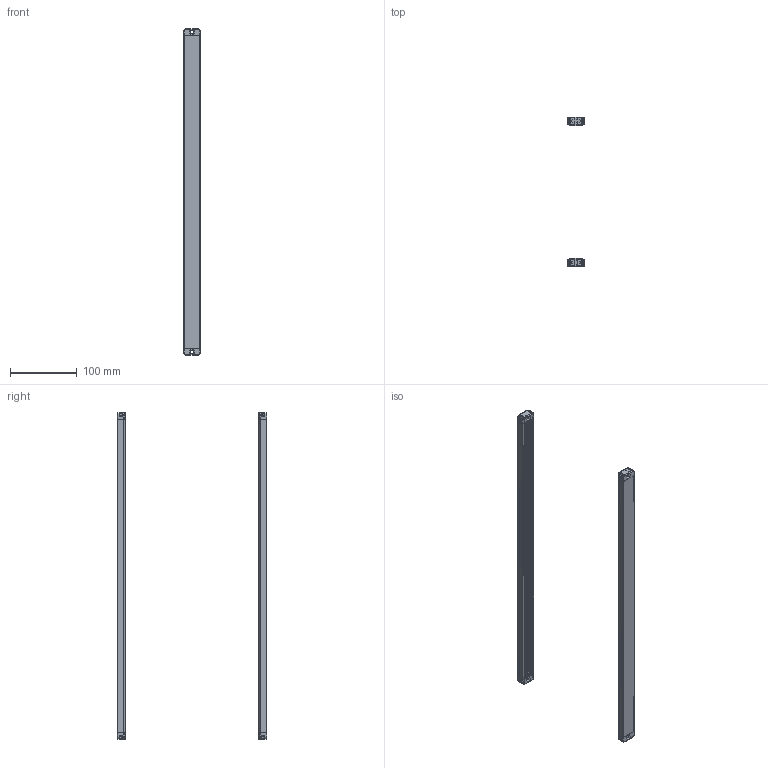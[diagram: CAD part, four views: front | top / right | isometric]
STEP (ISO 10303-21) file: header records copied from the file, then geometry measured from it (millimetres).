
FILE_DESCRIPTION (( 'STEP AP203' ), '1' );
FILE_NAME ('ZDB2420-470.STEP', '2022-08-31T03:13:53', ( 'Windows 蚚誧' ), ( 'Organization' ), 'SwSTEP 2.0', 'SolidWorks 2020', '' );
FILE_SCHEMA (( 'CONFIG_CONTROL_DESIGN' ));
Length unit declared in the file: millimetre
Products named in the file (4): 傷裔衵; 傷裔酘諉彶; 媼啃3臏倰第; ZDB2420-470
Assembly tree (6 placements, depth 2):
  ZDB2420-470
    傷裔衵  x2
    傷裔酘諉彶  x2
    媼啃3臏倰第  x2
Bounding box: 25 x 224 x 490 mm (x, y, z)
Volume: 95313.6 mm3; surface area: 153062.4 mm2
Topology: 6 solids, 6 shells, 650 faces, 1758 edges, 1124 vertices
Faces by surface type: plane 406, cylinder 188, torus 32, bspline 16, sphere 8
Entity records: 11427 total; most frequent: CARTESIAN_POINT 2721, ORIENTED_EDGE 1750, DIRECTION 1687, EDGE_CURVE 875, LINE 631, VECTOR 631, VERTEX_POINT 562, AXIS2_PLACEMENT_3D 528
